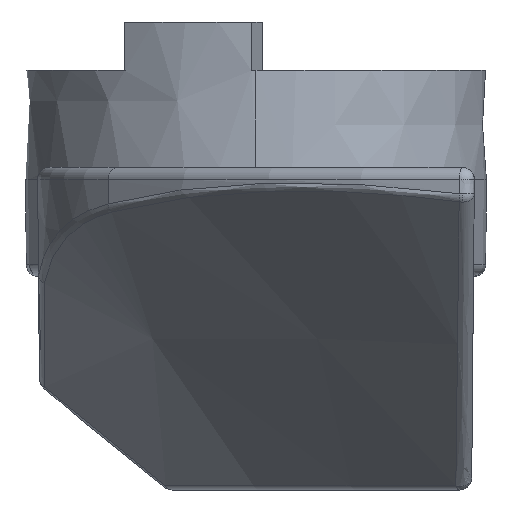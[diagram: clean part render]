
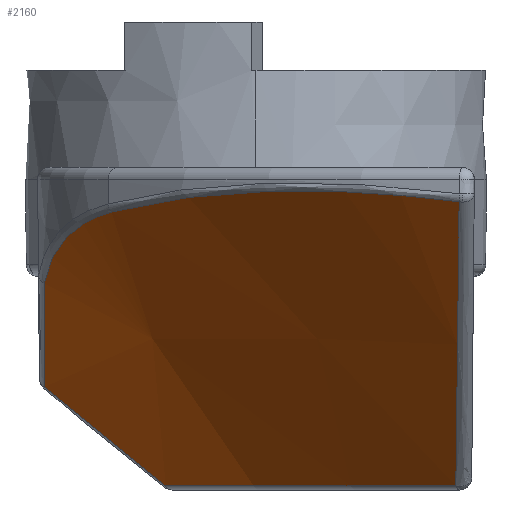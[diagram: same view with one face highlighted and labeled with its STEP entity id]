
A CAD part, left-side view. The second image highlights one B-rep face of the part: STEP entity #2160.
In plain terms, the highlighted conical face has half-angle 41.5 degrees and reference radius 40 mm.
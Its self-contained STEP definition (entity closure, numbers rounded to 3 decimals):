
#41 = VERTEX_POINT ( 'NONE', #486 ) ;
#47 = VERTEX_POINT ( 'NONE', #492 ) ;
#51 = VERTEX_POINT ( 'NONE', #496 ) ;
#54 = VERTEX_POINT ( 'NONE', #499 ) ;
#64 = VERTEX_POINT ( 'NONE', #509 ) ;
#123 = CIRCLE ( 'NONE', #340, 40.149 ) ;
#280 = AXIS2_PLACEMENT_3D ( 'NONE', #725, #724, #723 ) ;
#340 = AXIS2_PLACEMENT_3D ( 'NONE', #1724, #1726, #1727 ) ;
#474 = VERTEX_POINT ( 'NONE', #705 ) ;
#486 = CARTESIAN_POINT ( 'NONE',  ( -21.489, 68.736, -1.133 ) ) ;
#492 = CARTESIAN_POINT ( 'NONE',  ( -15.886, 68.721, -5.402 ) ) ;
#496 = CARTESIAN_POINT ( 'NONE',  ( -27.442, 65.961, 1.814 ) ) ;
#499 = CARTESIAN_POINT ( 'NONE',  ( -16.052, 63.724, -9.481 ) ) ;
#509 = CARTESIAN_POINT ( 'NONE',  ( -24.484, 51.759, -9.481 ) ) ;
#705 = CARTESIAN_POINT ( 'NONE',  ( -35.701, 51.624, 2.234 ) ) ;
#723 = DIRECTION ( 'NONE',  ( -1., 0., 0. ) ) ;
#724 = DIRECTION ( 'NONE',  ( 0., 0., 1. ) ) ;
#725 = CARTESIAN_POINT ( 'NONE',  ( 12., 35., -9.65 ) ) ;
#1677 = CARTESIAN_POINT ( 'NONE',  ( -35.701, 51.624, 2.234 ) ) ;
#1688 = CARTESIAN_POINT ( 'NONE',  ( -31.996, 51.667, -1.704 ) ) ;
#1689 = CARTESIAN_POINT ( 'NONE',  ( -28.267, 51.712, -5.618 ) ) ;
#1690 = CARTESIAN_POINT ( 'NONE',  ( -24.484, 51.759, -9.481 ) ) ;
#1692 = CARTESIAN_POINT ( 'NONE',  ( -27.442, 65.961, 1.814 ) ) ;
#1695 = CARTESIAN_POINT ( 'NONE',  ( -16.052, 63.724, -9.481 ) ) ;
#1696 = CARTESIAN_POINT ( 'NONE',  ( -28.466, 65.012, 2.062 ) ) ;
#1697 = CARTESIAN_POINT ( 'NONE',  ( -29.412, 63.993, 2.256 ) ) ;
#1698 = CARTESIAN_POINT ( 'NONE',  ( -31.15, 61.817, 2.54 ) ) ;
#1699 = CARTESIAN_POINT ( 'NONE',  ( -31.941, 60.661, 2.631 ) ) ;
#1700 = CARTESIAN_POINT ( 'NONE',  ( -33.358, 58.203, 2.703 ) ) ;
#1701 = CARTESIAN_POINT ( 'NONE',  ( -33.965, 56.937, 2.684 ) ) ;
#1702 = CARTESIAN_POINT ( 'NONE',  ( -34.981, 54.334, 2.539 ) ) ;
#1703 = CARTESIAN_POINT ( 'NONE',  ( -35.391, 52.997, 2.415 ) ) ;
#1704 = CARTESIAN_POINT ( 'NONE',  ( -35.701, 51.624, 2.234 ) ) ;
#1705 = CARTESIAN_POINT ( 'NONE',  ( -15.886, 68.721, -5.402 ) ) ;
#1706 = CARTESIAN_POINT ( 'NONE',  ( -15.997, 65.417, -8.155 ) ) ;
#1707 = CARTESIAN_POINT ( 'NONE',  ( -15.942, 67.08, -6.792 ) ) ;
#1708 = CARTESIAN_POINT ( 'NONE',  ( -15.886, 68.721, -5.402 ) ) ;
#1709 = CARTESIAN_POINT ( 'NONE',  ( -21.489, 68.736, -1.133 ) ) ;
#1710 = CARTESIAN_POINT ( 'NONE',  ( -17.79, 68.725, -4.027 ) ) ;
#1711 = CARTESIAN_POINT ( 'NONE',  ( -19.654, 68.73, -2.598 ) ) ;
#1712 = CARTESIAN_POINT ( 'NONE',  ( -21.489, 68.736, -1.133 ) ) ;
#1713 = CARTESIAN_POINT ( 'NONE',  ( -21.993, 68.673, -0.782 ) ) ;
#1714 = CARTESIAN_POINT ( 'NONE',  ( -22.504, 68.572, -0.45 ) ) ;
#1715 = CARTESIAN_POINT ( 'NONE',  ( -23.524, 68.29, 0.164 ) ) ;
#1716 = CARTESIAN_POINT ( 'NONE',  ( -24.035, 68.108, 0.446 ) ) ;
#1717 = CARTESIAN_POINT ( 'NONE',  ( -24.8, 67.765, 0.829 ) ) ;
#1718 = CARTESIAN_POINT ( 'NONE',  ( -25.055, 67.638, 0.951 ) ) ;
#1719 = CARTESIAN_POINT ( 'NONE',  ( -25.556, 67.364, 1.173 ) ) ;
#1720 = CARTESIAN_POINT ( 'NONE',  ( -25.802, 67.216, 1.276 ) ) ;
#1721 = CARTESIAN_POINT ( 'NONE',  ( -26.528, 66.738, 1.556 ) ) ;
#1722 = CARTESIAN_POINT ( 'NONE',  ( -26.995, 66.376, 1.705 ) ) ;
#1723 = CARTESIAN_POINT ( 'NONE',  ( -27.442, 65.961, 1.814 ) ) ;
#1724 = CARTESIAN_POINT ( 'NONE',  ( 12., 35., -9.481 ) ) ;
#1726 = DIRECTION ( 'NONE',  ( 0., 0., -1. ) ) ;
#1727 = DIRECTION ( 'NONE',  ( 1., 0., 0. ) ) ;
#2111 = B_SPLINE_CURVE_WITH_KNOTS ( 'NONE', 3,
 ( #1709, #1713, #1714, #1715, #1716, #1717, #1718, #1719, #1720, #1721, #1722, #1723 ),
 .UNSPECIFIED., .F., .F.,
 ( 4, 2, 2, 2, 2, 4 ),
 ( 0., 0.002, 0.004, 0.005, 0.006, 0.007 ),
 .UNSPECIFIED. ) ;
#2112 = B_SPLINE_CURVE_WITH_KNOTS ( 'NONE', 3,
 ( #1705, #1710, #1711, #1712 ),
 .UNSPECIFIED., .F., .F.,
 ( 4, 4 ),
 ( 0., 0.007 ),
 .UNSPECIFIED. ) ;
#2113 = B_SPLINE_CURVE_WITH_KNOTS ( 'NONE', 3,
 ( #1695, #1706, #1707, #1708 ),
 .UNSPECIFIED., .F., .F.,
 ( 4, 4 ),
 ( 0., 0.006 ),
 .UNSPECIFIED. ) ;
#2114 = B_SPLINE_CURVE_WITH_KNOTS ( 'NONE', 3,
 ( #1692, #1696, #1697, #1698, #1699, #1700, #1701, #1702, #1703, #1704 ),
 .UNSPECIFIED., .F., .F.,
 ( 4, 2, 2, 2, 4 ),
 ( 0., 0.004, 0.008, 0.013, 0.017 ),
 .UNSPECIFIED. ) ;
#2115 = B_SPLINE_CURVE_WITH_KNOTS ( 'NONE', 3,
 ( #1677, #1688, #1689, #1690 ),
 .UNSPECIFIED., .F., .F.,
 ( 4, 4 ),
 ( 0., 0.016 ),
 .UNSPECIFIED. ) ;
#2160 = ADVANCED_FACE ( 'NONE', ( #2446 ), #2451, .T. ) ;
#2263 = EDGE_CURVE ( 'NONE', #474, #64, #2115, .T. ) ;
#2265 = EDGE_CURVE ( 'NONE', #51, #474, #2114, .T. ) ;
#2266 = EDGE_CURVE ( 'NONE', #54, #47, #2113, .T. ) ;
#2267 = EDGE_CURVE ( 'NONE', #47, #41, #2112, .T. ) ;
#2268 = EDGE_CURVE ( 'NONE', #41, #51, #2111, .T. ) ;
#2269 = EDGE_CURVE ( 'NONE', #64, #54, #123, .T. ) ;
#2446 = FACE_OUTER_BOUND ( 'NONE', #2865, .T. ) ;
#2451 = CONICAL_SURFACE ( 'NONE', #280, 40., 0.724 ) ;
#2577 = ORIENTED_EDGE ( 'NONE', *, *, #2268, .F. ) ;
#2578 = ORIENTED_EDGE ( 'NONE', *, *, #2267, .F. ) ;
#2579 = ORIENTED_EDGE ( 'NONE', *, *, #2266, .F. ) ;
#2580 = ORIENTED_EDGE ( 'NONE', *, *, #2269, .F. ) ;
#2581 = ORIENTED_EDGE ( 'NONE', *, *, #2263, .F. ) ;
#2582 = ORIENTED_EDGE ( 'NONE', *, *, #2265, .F. ) ;
#2865 = EDGE_LOOP ( 'NONE', ( #2577, #2578, #2579, #2580, #2581, #2582 ) ) ;
